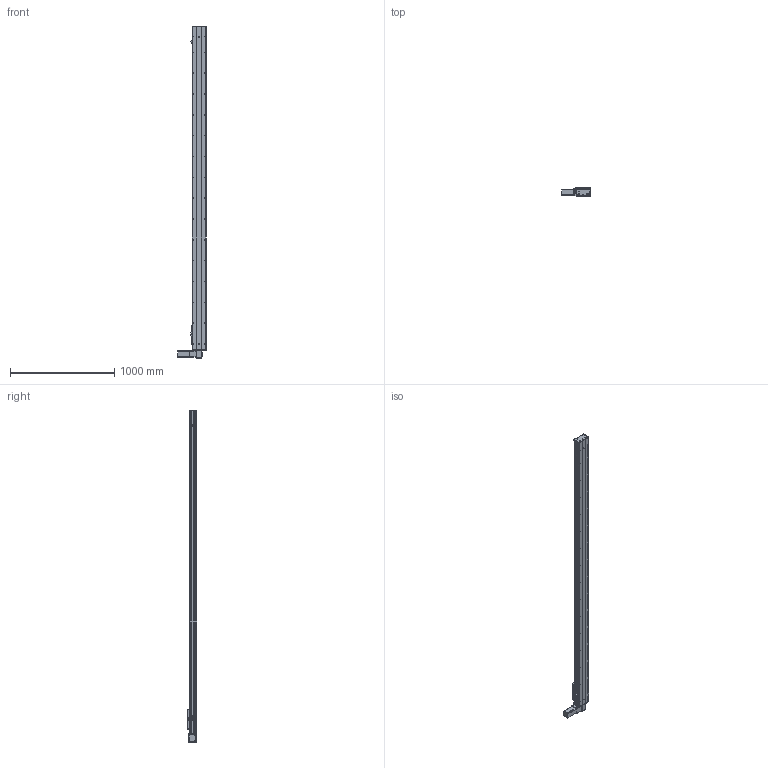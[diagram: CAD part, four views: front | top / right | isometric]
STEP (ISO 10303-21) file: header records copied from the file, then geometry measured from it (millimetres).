
FILE_DESCRIPTION (( 'STEP AP203' ), '1' );
FILE_NAME ('Y135CB-D90-S2800-BD-P400W.STEP', '2020-02-19T06:21:18', ( '微软用户' ), ( '微软中国' ), 'SwSTEP 2.0', 'SolidWorks 2017', '' );
FILE_SCHEMA (( 'CONFIG_CONTROL_DESIGN' ));
Length unit declared in the file: millimetre
Products named in the file (16): 0B-源倛裔啣; Y10B--々湍喘謫眊--666; san松下电机400不带刹车----; 0B-薊粣ん眊; Y135CB-D90-S2800-BD-P400W; 5CB --掛极耜裔啣-; C-詩湍揤踡え-陔; 135CB--詩湍-CE; Y135CB-耜裔; Y100-135俋离換覜ん--; 135CB---遴掛极.-; Y135C-陔俋离換覜結え-; 35CB---喘謫眊楊擘啣; 5C--俋欶; 0B-埴倛裔啣; C-雄赽釱--
Assembly tree (19 placements, depth 2):
  Y135CB-D90-S2800-BD-P400W
    Y135CB-耜裔
    135CB---遴掛极.-
    35CB---喘謫眊楊擘啣
    0B-埴倛裔啣
    0B-源倛裔啣
    san松下电机400不带刹车----
    5CB --掛极耜裔啣-  x2
    C-詩湍揤踡え-陔  x2
    135CB--詩湍-CE
    Y100-135俋离換覜ん--  x3
    Y135C-陔俋离換覜結え-
    5C--俋欶
    C-雄赽釱--
    Y10B--々湍喘謫眊--666
    0B-薊粣ん眊
Bounding box: 272 x 91 x 3188 mm (x, y, z)
Volume: 9061232.6 mm3; surface area: 3549037.5 mm2
Topology: 19 solids, 19 shells, 891 faces, 2428 edges, 1608 vertices
Faces by surface type: cylinder 460, plane 415, cone 16
Entity records: 27824 total; most frequent: CARTESIAN_POINT 4643, DIRECTION 4640, ORIENTED_EDGE 4332, EDGE_CURVE 2166, AXIS2_PLACEMENT_3D 1713, VERTEX_POINT 1436, VECTOR 1214, LINE 1214
